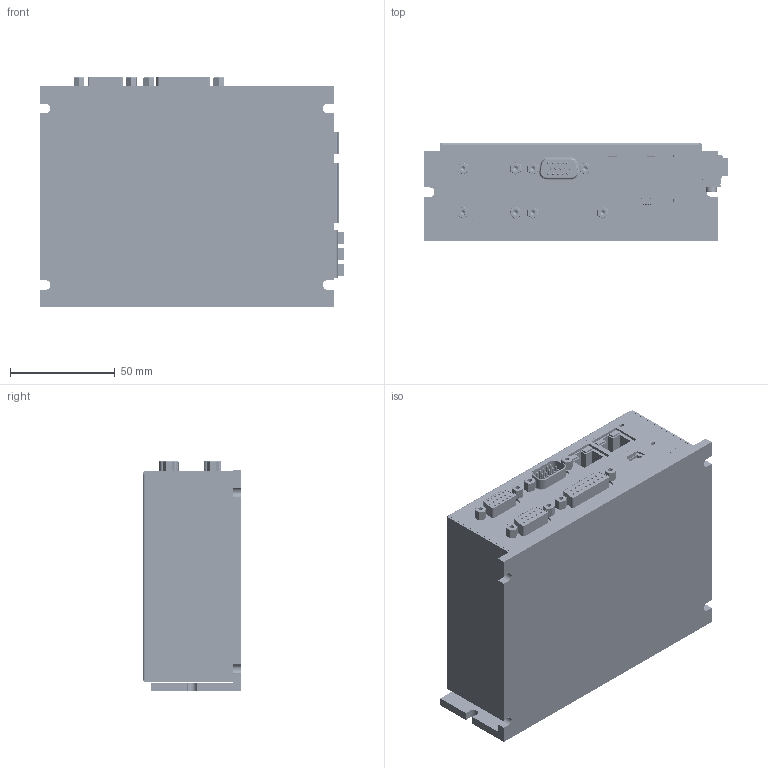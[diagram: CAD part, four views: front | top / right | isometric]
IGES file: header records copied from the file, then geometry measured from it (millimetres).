
Start section: SolidWorks IGES file using analytic representation for surfaces
Global section: file name: P:\Marketing\Manuals\Gold Line\Gold DC Trombone\files\Gold-DC-Trombone-new-empty.IGS; native system: SolidWorks 2012; preprocessor: SolidWorks 2012; author: shlomo; date: 120722.085913; units: millimetre
Bounding box: 145.1 x 46.85 x 109.5 mm (x, y, z)
Surface area: 125060.9 mm2 (no closed solid volume)
Topology: 0 solids, 0 shells, 5064 faces, 43132 edges, 43043 vertices
Faces by surface type: bspline 3978, revolution 1086
